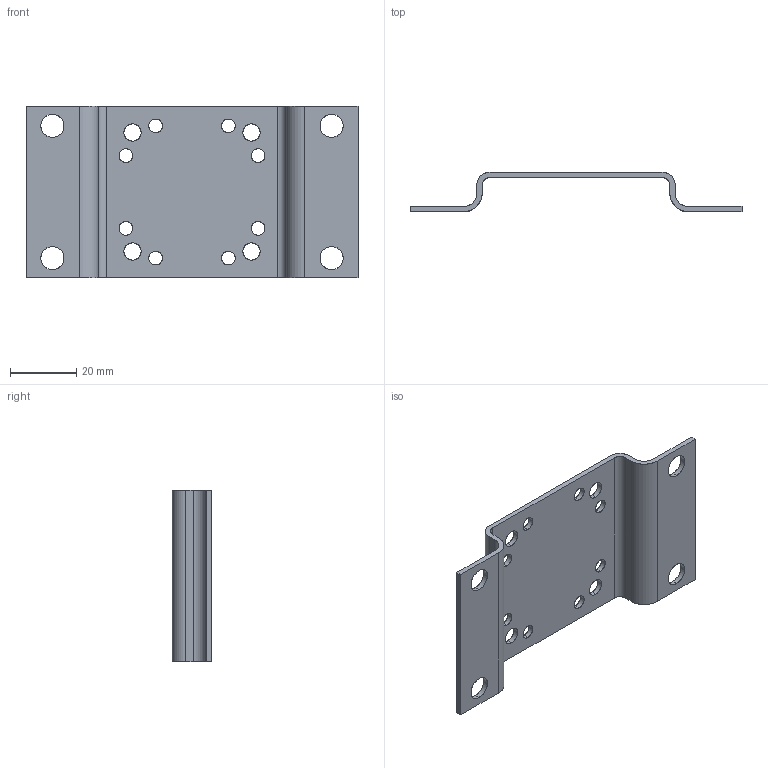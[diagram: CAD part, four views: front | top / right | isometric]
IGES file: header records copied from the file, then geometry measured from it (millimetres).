
Start section: SolidWorks IGES file using analytic representation for surfaces
Global section: file name: C:\Salvar\Planos Compartidos\Regulador de Pres. Prop\Soporte.IGS; native system: SolidWorks 2021; preprocessor: SolidWorks 2021; author: osval; date: 210211.145935; units: millimetre
Bounding box: 100.5 x 12 x 52 mm (x, y, z)
Surface area: 12151.6 mm2 (no closed solid volume)
Topology: 0 solids, 0 shells, 54 faces, 1384 edges, 1384 vertices
Faces by surface type: revolution 40, bspline 14
